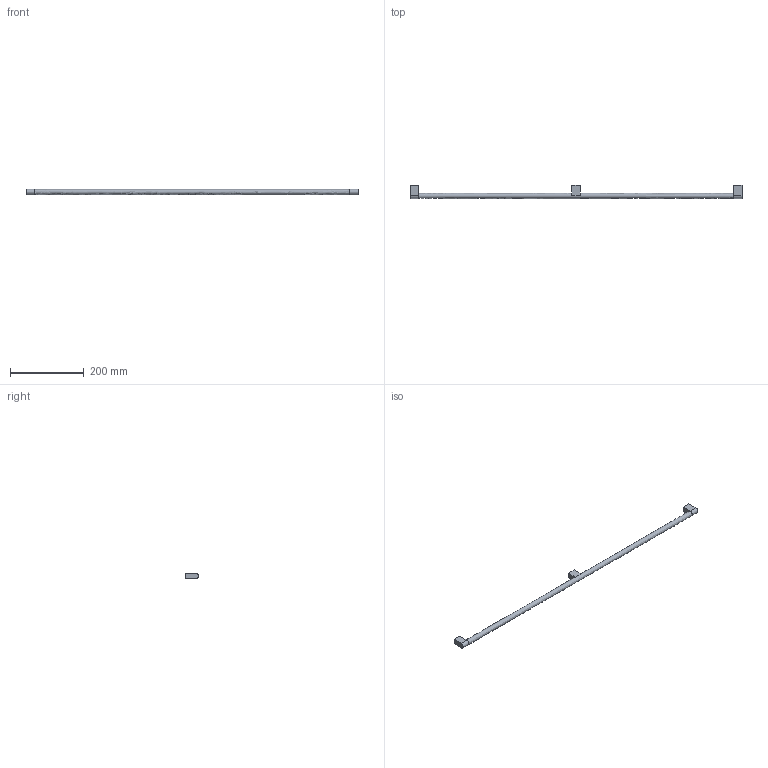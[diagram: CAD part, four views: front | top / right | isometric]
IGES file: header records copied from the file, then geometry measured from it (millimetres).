
Start section: Data from Parasolid IGES Translator 20.0.26, Copyright(c) 2006 Siemens P LM Software. All Rights Reserved.
Global section: file name: 9332357.igs; native system: By Siemens PLM Incorporated; preprocessor: XPlus GENERIC/IGES 20.0.26; author: Noname; organization: Noname; date: 20230829.123137; units: millimetre
Bounding box: 900 x 35.36 x 14.64 mm (x, y, z)
Surface area: 46645.6 mm2 (no closed solid volume)
Topology: 0 solids, 0 shells, 26 faces, 108 edges, 102 vertices
Faces by surface type: extrusion 20, revolution 6
